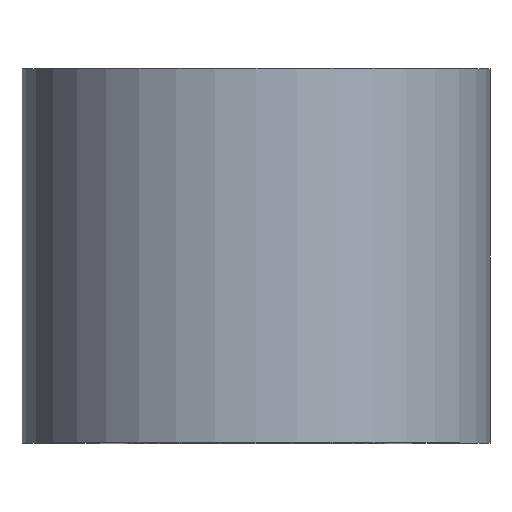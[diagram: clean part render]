
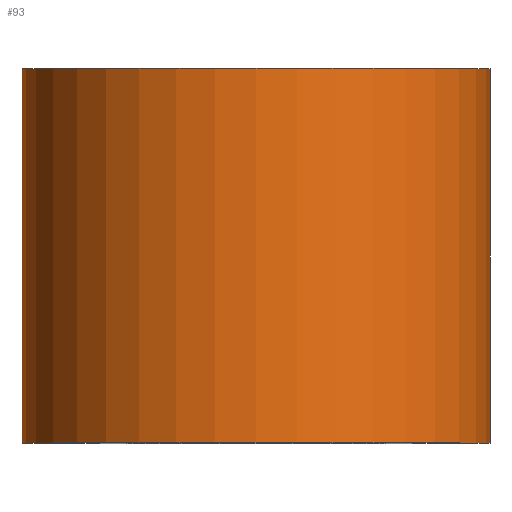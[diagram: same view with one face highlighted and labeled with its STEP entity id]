
A CAD part, top view. The second image highlights one B-rep face of the part: STEP entity #93.
In plain terms, the highlighted cylindrical face has radius 7.5 mm (diameter 15 mm), a partial arc.
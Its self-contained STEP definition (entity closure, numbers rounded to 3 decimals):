
#2 = DIRECTION ( 'NONE',  ( 0., 1., 0. ) ) ;
#12 = EDGE_CURVE ( 'NONE', #269, #60, #265, .T. ) ;
#14 = CARTESIAN_POINT ( 'NONE',  ( 0., 0., 0. ) ) ;
#17 = ORIENTED_EDGE ( 'NONE', *, *, #212, .T. ) ;
#22 = VERTEX_POINT ( 'NONE', #220 ) ;
#34 = DIRECTION ( 'NONE',  ( -1., 0., 0. ) ) ;
#38 = VERTEX_POINT ( 'NONE', #298 ) ;
#41 = CYLINDRICAL_SURFACE ( 'NONE', #136, 7.5 ) ;
#44 = ORIENTED_EDGE ( 'NONE', *, *, #222, .T. ) ;
#46 = ORIENTED_EDGE ( 'NONE', *, *, #108, .F. ) ;
#49 = CARTESIAN_POINT ( 'NONE',  ( 7.5, 0., 0. ) ) ;
#60 = VERTEX_POINT ( 'NONE', #301 ) ;
#64 = ORIENTED_EDGE ( 'NONE', *, *, #12, .F. ) ;
#80 = VECTOR ( 'NONE', #227, 1000. ) ;
#84 = CARTESIAN_POINT ( 'NONE',  ( 0., 12., 0. ) ) ;
#85 = AXIS2_PLACEMENT_3D ( 'NONE', #84, #250, #231 ) ;
#93 = ADVANCED_FACE ( 'NONE', ( #260 ), #41, .T. ) ;
#94 = AXIS2_PLACEMENT_3D ( 'NONE', #14, #188, #34 ) ;
#108 = EDGE_CURVE ( 'NONE', #38, #269, #214, .T. ) ;
#109 = CARTESIAN_POINT ( 'NONE',  ( 0., 0., 0. ) ) ;
#130 = EDGE_LOOP ( 'NONE', ( #44, #17, #64, #46 ) ) ;
#136 = AXIS2_PLACEMENT_3D ( 'NONE', #109, #255, #224 ) ;
#159 = CIRCLE ( 'NONE', #94, 7.5 ) ;
#166 = CARTESIAN_POINT ( 'NONE',  ( -7.5, 12., 0. ) ) ;
#171 = VECTOR ( 'NONE', #2, 1000. ) ;
#172 = LINE ( 'NONE', #49, #171 ) ;
#188 = DIRECTION ( 'NONE',  ( 0., 1., 0. ) ) ;
#203 = CARTESIAN_POINT ( 'NONE',  ( -7.5, 0., 0. ) ) ;
#212 = EDGE_CURVE ( 'NONE', #22, #60, #172, .T. ) ;
#214 = LINE ( 'NONE', #203, #80 ) ;
#220 = CARTESIAN_POINT ( 'NONE',  ( 7.5, 0., 0. ) ) ;
#222 = EDGE_CURVE ( 'NONE', #38, #22, #159, .T. ) ;
#224 = DIRECTION ( 'NONE',  ( -1., 0., 0. ) ) ;
#227 = DIRECTION ( 'NONE',  ( 0., 1., 0. ) ) ;
#231 = DIRECTION ( 'NONE',  ( -1., 0., 0. ) ) ;
#250 = DIRECTION ( 'NONE',  ( 0., 1., 0. ) ) ;
#255 = DIRECTION ( 'NONE',  ( 0., 1., 0. ) ) ;
#260 = FACE_OUTER_BOUND ( 'NONE', #130, .T. ) ;
#265 = CIRCLE ( 'NONE', #85, 7.5 ) ;
#269 = VERTEX_POINT ( 'NONE', #166 ) ;
#298 = CARTESIAN_POINT ( 'NONE',  ( -7.5, 0., 0. ) ) ;
#301 = CARTESIAN_POINT ( 'NONE',  ( 7.5, 12., 0. ) ) ;
